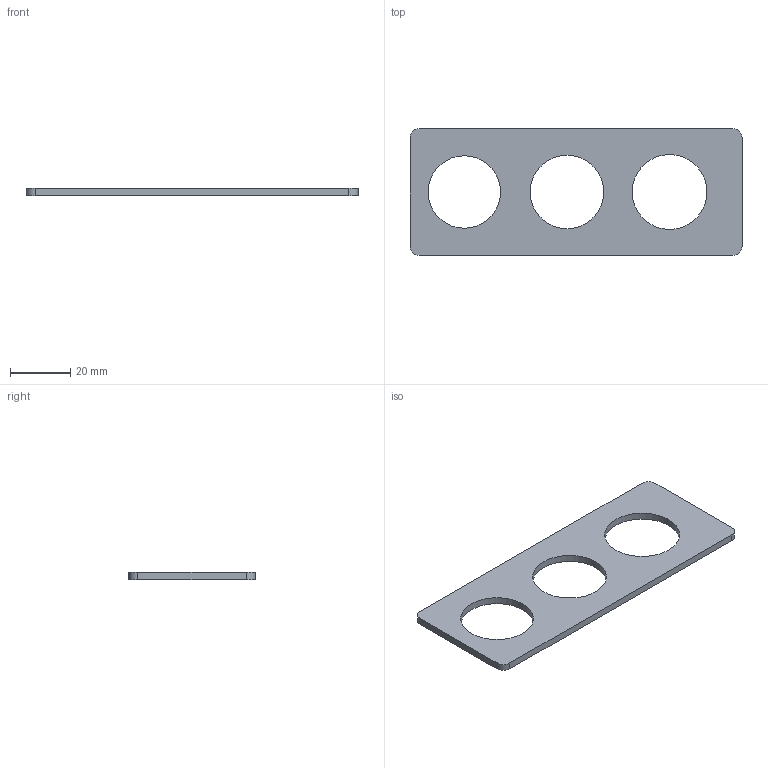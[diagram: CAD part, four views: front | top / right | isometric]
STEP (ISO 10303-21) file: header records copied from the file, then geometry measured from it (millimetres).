
FILE_DESCRIPTION(('Open CASCADE Model'),'2;1');
FILE_NAME('Open CASCADE Shape Model','2026-10-01T00:49:01',('Author'),( 'Open CASCADE'),'Open CASCADE STEP processor 7.9','Open CASCADE 7.9' ,'Unknown');
FILE_SCHEMA(('AUTOMOTIVE_DESIGN { 1 0 10303 214 1 1 1 1 }'));
Length unit declared in the file: millimetre
Products named in the file (1): Open CASCADE STEP translator 7.9 4
Bounding box: 110 x 42 x 2.4 mm (x, y, z)
Volume: 7702.2 mm3; surface area: 7687.6 mm2
Topology: 1 solids, 1 shells, 13 faces, 33 edges, 22 vertices
Faces by surface type: cylinder 7, plane 6
Full cylindrical faces by diameter (mm): 24 x1, 24.4 x1, 24.8 x1
Entity records: 882 total; most frequent: CARTESIAN_POINT 195, DIRECTION 131, LINE 71, VECTOR 71, ORIENTED_EDGE 66, PCURVE 66, DEFINITIONAL_REPRESENTATION 66, EDGE_CURVE 33
